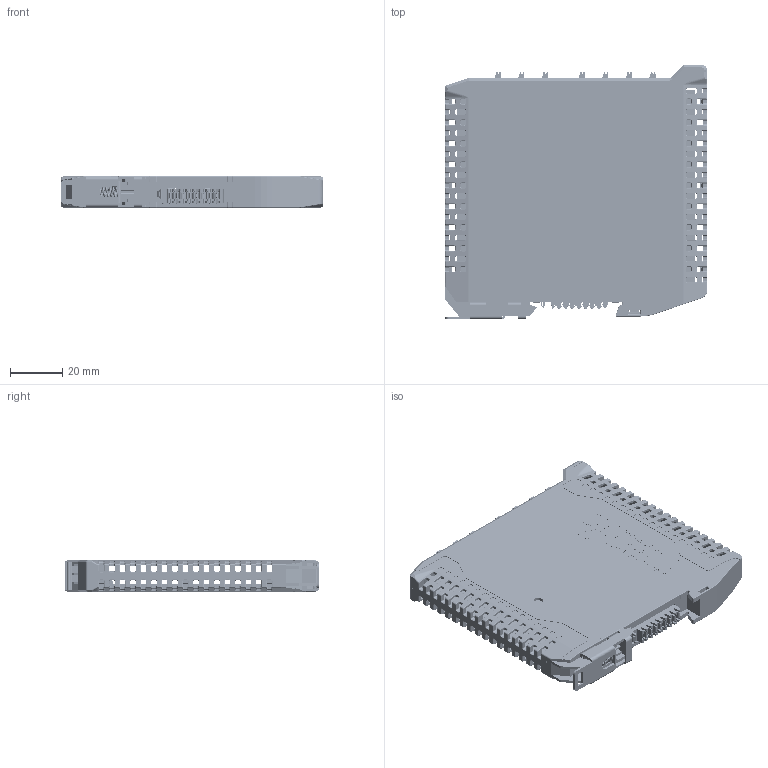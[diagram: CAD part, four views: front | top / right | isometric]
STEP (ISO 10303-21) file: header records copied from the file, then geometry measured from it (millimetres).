
FILE_DESCRIPTION((''),'2;1');
FILE_NAME('DAUDIN_GF2-AQ01T_ASM','2023-06-07T',('Rex.Song'),(''),'CREO PARAMETRIC BY PTC INC, 2015480','CREO PARAMETRIC BY PTC INC, 2015480','');
FILE_SCHEMA(('CONFIG_CONTROL_DESIGN'));
Products named in the file (16): PCB_BS-521XND-C008_AF0; 0173P40300_AF1; 0173B02000; C000004600_AF1; BS-521XND-01_AF2_ASM; 0173P50300_AF1; BS-521XND-02_AF2_ASM; BS-521XND-C008_AF0_ASM; BS-521XND-C008SA32_AF0_ASM; A001824301; 0173D2XX00; 0173B00100; 0173B01500; BS-100_ASM; DAUDAI_GF2-AI02T_1_4; DAUDIN_GF2-AQ01T_ASM
Assembly tree (22 placements, depth 5):
  DAUDIN_GF2-AQ01T_ASM
    BS-521XND-C008SA32_AF0_ASM
      BS-521XND-C008_AF0_ASM
        PCB_BS-521XND-C008_AF0
        BS-521XND-01_AF2_ASM
          0173P40300_AF1
          0173B02000
          C000004600_AF1
        BS-521XND-02_AF2_ASM
          0173P50300_AF1
    A001824301
    BS-100_ASM
      0173D2XX00
      0173B00100  x8
      0173B01500
    DAUDAI_GF2-AI02T_1_4
Bounding box: 100 x 97 x 12 mm (x, y, z)
Volume: 36588 mm3; surface area: 66216.7 mm2
Topology: 18 solids, 29 shells, 9786 faces, 26274 edges, 16542 vertices
Faces by surface type: plane 4246, cylinder 3146, extrusion 952, bspline 737, torus 450, cone 198, sphere 52, revolution 5
Entity records: 374183 total; most frequent: CARTESIAN_POINT 136427, ORIENTED_EDGE 48931, DIRECTION 42057, EDGE_CURVE 24526, VECTOR 15630, VERTEX_POINT 15534, LINE 14678, AXIS2_PLACEMENT_3D 13211
